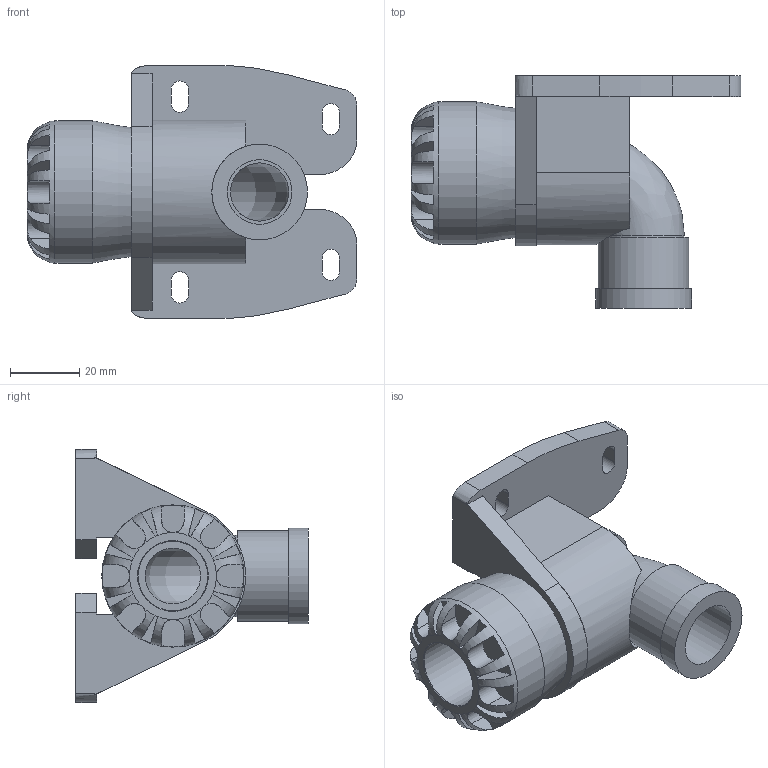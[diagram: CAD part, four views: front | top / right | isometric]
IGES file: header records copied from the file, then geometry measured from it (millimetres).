
Global section: file name: 107500020005.ipt; native system: Autodesk Inventor 2015; preprocessor: unknown; author: KIM; date: 20170122.114643; units: millimetre
Bounding box: 95 x 67 x 73 mm (x, y, z)
Volume: 87664.7 mm3; surface area: 36556.2 mm2
Topology: 2 solids, 2 shells, 146 faces, 394 edges, 257 vertices
Faces by surface type: plane 94, revolution 27, cylinder 15, bspline 10
Full cylindrical faces by diameter (mm): 23.475 x1, 26.083 x1, 27.574 x1, 36.08 x1, 41 x1
